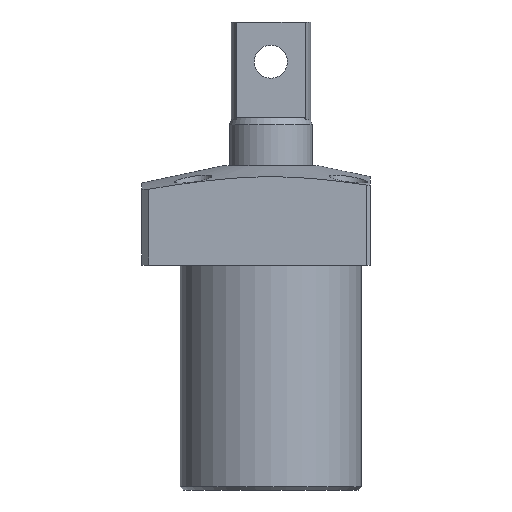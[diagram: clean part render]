
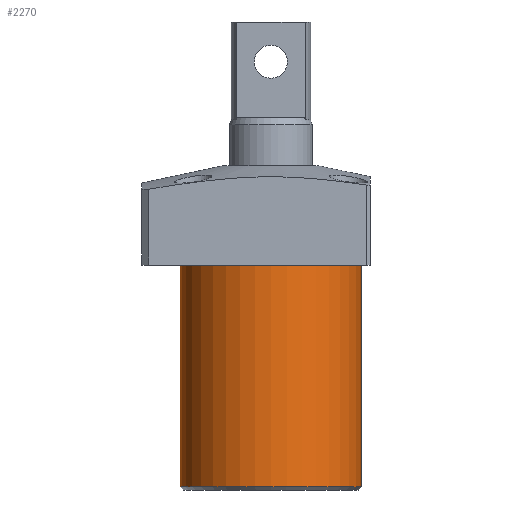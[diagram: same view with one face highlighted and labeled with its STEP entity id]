
A CAD part, front view. The second image highlights one B-rep face of the part: STEP entity #2270.
In plain terms, the highlighted cylindrical face has radius 27.4 mm (diameter 54.8 mm), a partial arc.
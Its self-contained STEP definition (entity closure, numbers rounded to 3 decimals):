
#102 = ORIENTED_EDGE ( 'NONE', *, *, #327, .T. ) ;
#120 = DIRECTION ( 'NONE',  ( 0., 0., -1. ) ) ;
#194 = AXIS2_PLACEMENT_3D ( 'NONE', #359, #1521, #2336 ) ;
#217 = VERTEX_POINT ( 'NONE', #921 ) ;
#227 = EDGE_LOOP ( 'NONE', ( #1880, #2416, #102, #536 ) ) ;
#294 = EDGE_CURVE ( 'NONE', #1131, #1154, #1646, .T. ) ;
#311 = VECTOR ( 'NONE', #1173, 1000. ) ;
#327 = EDGE_CURVE ( 'NONE', #1131, #1753, #2167, .T. ) ;
#359 = CARTESIAN_POINT ( 'NONE',  ( 0., 0., 1. ) ) ;
#361 = CARTESIAN_POINT ( 'NONE',  ( 27.4, 0., 68. ) ) ;
#505 = DIRECTION ( 'NONE',  ( -1., 0., 0. ) ) ;
#536 = ORIENTED_EDGE ( 'NONE', *, *, #2126, .T. ) ;
#571 = DIRECTION ( 'NONE',  ( 0., 0., -1. ) ) ;
#600 = CARTESIAN_POINT ( 'NONE',  ( 27.4, 0., 68. ) ) ;
#734 = CYLINDRICAL_SURFACE ( 'NONE', #1523, 27.4 ) ;
#804 = CARTESIAN_POINT ( 'NONE',  ( 0., 0., 68. ) ) ;
#890 = VECTOR ( 'NONE', #571, 1000. ) ;
#921 = CARTESIAN_POINT ( 'NONE',  ( 27.4, 0., 1. ) ) ;
#1025 = CIRCLE ( 'NONE', #194, 27.4 ) ;
#1043 = CARTESIAN_POINT ( 'NONE',  ( -27.4, 0., 68. ) ) ;
#1131 = VERTEX_POINT ( 'NONE', #1043 ) ;
#1154 = VERTEX_POINT ( 'NONE', #600 ) ;
#1173 = DIRECTION ( 'NONE',  ( 0., 0., -1. ) ) ;
#1293 = CARTESIAN_POINT ( 'NONE',  ( 0., 0., 68. ) ) ;
#1428 = CARTESIAN_POINT ( 'NONE',  ( -27.4, 0., 1. ) ) ;
#1521 = DIRECTION ( 'NONE',  ( 0., 0., 1. ) ) ;
#1523 = AXIS2_PLACEMENT_3D ( 'NONE', #1293, #120, #505 ) ;
#1571 = CARTESIAN_POINT ( 'NONE',  ( -27.4, 0., 68. ) ) ;
#1607 = DIRECTION ( 'NONE',  ( 1., 0., 0. ) ) ;
#1646 = CIRCLE ( 'NONE', #2576, 27.4 ) ;
#1720 = FACE_OUTER_BOUND ( 'NONE', #227, .T. ) ;
#1753 = VERTEX_POINT ( 'NONE', #1428 ) ;
#1755 = LINE ( 'NONE', #361, #890 ) ;
#1855 = EDGE_CURVE ( 'NONE', #1154, #217, #1755, .T. ) ;
#1880 = ORIENTED_EDGE ( 'NONE', *, *, #1855, .F. ) ;
#2126 = EDGE_CURVE ( 'NONE', #1753, #217, #1025, .T. ) ;
#2167 = LINE ( 'NONE', #1571, #311 ) ;
#2217 = DIRECTION ( 'NONE',  ( 0., 0., 1. ) ) ;
#2270 = ADVANCED_FACE ( 'NONE', ( #1720 ), #734, .T. ) ;
#2336 = DIRECTION ( 'NONE',  ( 1., 0., 0. ) ) ;
#2416 = ORIENTED_EDGE ( 'NONE', *, *, #294, .F. ) ;
#2576 = AXIS2_PLACEMENT_3D ( 'NONE', #804, #2217, #1607 ) ;
